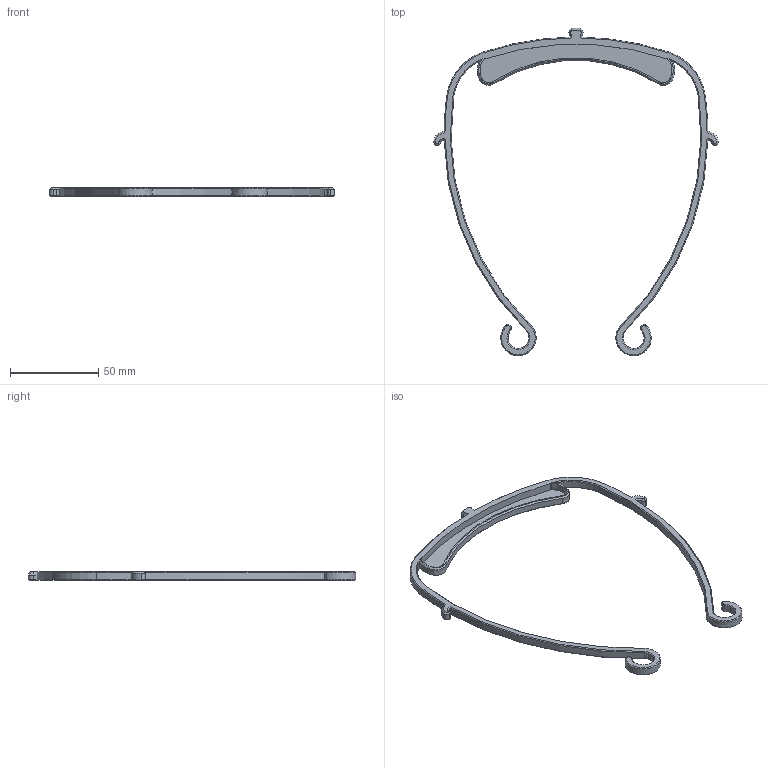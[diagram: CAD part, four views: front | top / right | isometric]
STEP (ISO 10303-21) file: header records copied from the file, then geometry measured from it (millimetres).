
FILE_DESCRIPTION((''),'2;1');
FILE_NAME('NA_LETTER3_STANDARD','2020-04-09T14:43:55',('Jason'),(''),'CREO PARAMETRIC BY PTC INC, 2019224','CREO PARAMETRIC BY PTC INC, 2019224','');
FILE_SCHEMA(('CONFIG_CONTROL_DESIGN'));
Length unit declared in the file: millimetre
Products named in the file (1): NA_LETTER3_STANDARD
Bounding box: 161.22 x 185.5 x 5 mm (x, y, z)
Volume: 12519.1 mm3; surface area: 13101.1 mm2
Topology: 1 solids, 1 shells, 117 faces, 280 edges, 166 vertices
Faces by surface type: cone 50, cylinder 29, plane 18, bspline 12, extrusion 8
Entity records: 5272 total; most frequent: CARTESIAN_POINT 2641, ORIENTED_EDGE 560, DIRECTION 509, EDGE_CURVE 280, AXIS2_PLACEMENT_3D 197, VERTEX_POINT 166, EDGE_LOOP 118, FACE_OUTER_BOUND 117
